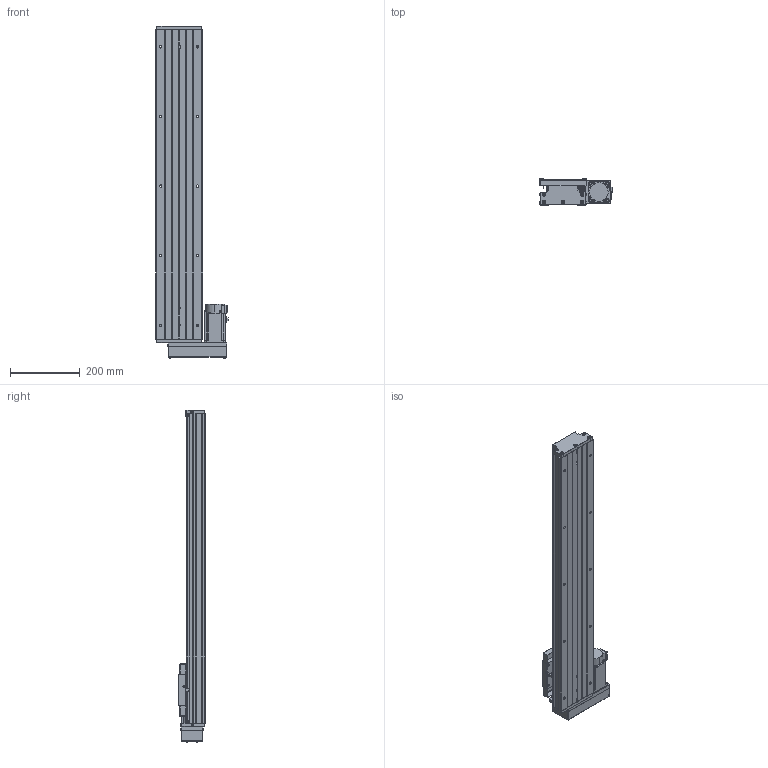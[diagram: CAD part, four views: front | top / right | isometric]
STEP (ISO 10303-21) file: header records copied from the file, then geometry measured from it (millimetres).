
FILE_DESCRIPTION (( 'STEP AP203' ), '1' );
FILE_NAME ('CTH130-700-BR-M40-C4.step', '2023-06-30T02:52:52', ( '微软用户' ), ( '微软中国' ), 'SwSTEP 2.0', 'SolidWorks 2020', '' );
FILE_SCHEMA (( 'CONFIG_CONTROL_DESIGN' ));
Length unit declared in the file: millimetre
Products named in the file (20): す晦芛蹟隊 M3℅5; GB T308.1-2013-6.35; CTHA60-016; HG-KN43J-S100; GTH14-004; GBT 70.2-M4¡Á35_M4¡Á35; GTH14-005; GBT 70.1-M3℅5; GTH14-015-2_CTHA86-015-2; GB1155-6X6; GBT77-2000 M3×3; GTH14-033; GBT70.1 M5℅16; CTH130-031; GTH14-001_700; CTH130-700-BR-M40-C4; CTHA60-017; GBT 70.2-M3¡Á5_M3¡Á6; CTH130-002_GTH14-002; EE_SX911P_R
Assembly tree (60 placements, depth 2):
  CTH130-700-BR-M40-C4
    GTH14-001_700
    CTH130-002_GTH14-002
    GB T308.1-2013-6.35  x2
    GTH14-004
    GTH14-005
    GB1155-6X6  x2
    GBT70.1 M5℅16  x10
    CTHA60-017  x3
    EE_SX911P_R  x3
    CTHA60-016  x2
    GBT 70.1-M3℅5  x6
    GBT77-2000 M3×3  x6
    CTH130-031
    GBT 70.2-M3¡Á5_M3¡Á6  x8
    す晦芛蹟隊 M3℅5  x6
    HG-KN43J-S100
    GBT 70.2-M4¡Á35_M4¡Á35  x4
    GTH14-015-2_CTHA86-015-2
    GTH14-033
Bounding box: 209.3 x 76 x 954.2 mm (x, y, z)
Volume: 5110283.6 mm3; surface area: 857539.2 mm2
Topology: 63 solids, 63 shells, 2435 faces, 5797 edges, 3585 vertices
Faces by surface type: plane 1310, cylinder 646, cone 299, torus 124, sphere 36, bspline 20
Entity records: 43924 total; most frequent: CARTESIAN_POINT 9847, DIRECTION 6402, ORIENTED_EDGE 6300, EDGE_CURVE 3150, AXIS2_PLACEMENT_3D 2184, LINE 2034, VECTOR 2034, VERTEX_POINT 1995
